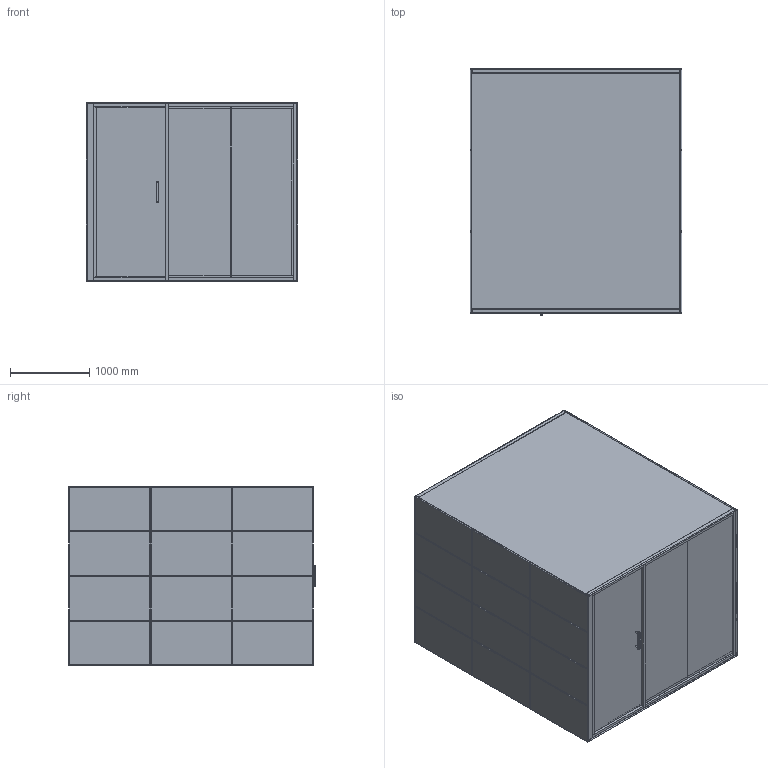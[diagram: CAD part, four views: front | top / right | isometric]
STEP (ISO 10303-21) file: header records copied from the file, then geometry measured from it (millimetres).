
FILE_DESCRIPTION(/* description */ ('','CAx-IF Rec.Pracs.---Representation and Presentation of Product Manufacturing Information (PMI)---4.0---2014-10-13'),/* implementation_level */ '2;1');
FILE_NAME(/* name */ 'SUMMIT6_step.step',/* time_stamp */ '2024-11-29T12:35:05+01:00',/* author */ (''),/* organization */ (''),/* preprocessor_version */ 'ST-DEVELOPER v20',/* originating_system */ 'Autodesk Translation Framework v13.20.0.188',/* authorisation */ '');
FILE_SCHEMA (('AP242_MANAGED_MODEL_BASED_3D_ENGINEERING_MIM_LF { 1 0 10303 442 1 1 4 }'));
Products named in the file (98): GEN4_SUMMIT6_EXPORT_FINAL_FBX; Floor; Component263; Ceiling; Component264; Upholstery_in; 08 (2); 05 (2); 09 (2); 02 (3); 04 (2); 03 (2); 06 (2); 07 (2); Upholstery_ex; 01 (4); 01 (5); 02 (5); Component2(Mirror) (1) (1); 03 (4); LATKA (8); 04 (4); 05 (4); 06 (4); 07 (4); 08 (4); 09 (4); 10 (1); 11 (1); 12 (1); 13 (1); 14 (1); 15 (1); Latka (1)_1; 16; 17; 18; 19; Component2(Mirror) (2); 02 (4)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
Assembly tree (145 placements, depth 5):
  GEN4_SUMMIT6_EXPORT_FINAL_FBX
    Floor
      Component263
    Ceiling
      Component264
    Upholstery_in
      02 (3)  x4
      03 (2)  x4
      04 (2)  x2
      05 (2)  x2
      06 (2)  x8
      07 (2)  x4
      08 (2)  x2
      09 (2)  x4
    Upholstery_ex
      01 (4)
        01 (5)
          LATKA (8)
        02 (5)
          Component2(Mirror) (1) (1)  x2
        03 (4)
          LATKA (8)
        04 (4)
          Latka (1)_1
        05 (4)
          Component2(Mirror) (2)
        06 (4)
          Latka (1)_1
        07 (4)
          Component2(Mirror) (2)
        08 (4)
          Latka (1)_1
        09 (4)
          Component2(Mirror) (2)
        10 (1)
          Latka (1)_1
        11 (1)
          Component2(Mirror) (2)
        12 (1)
          Latka (1)_1
        13 (1)
          Latka (1)_1
        14 (1)
          Latka (1)_1
        15 (1)
          Latka (1)_1
        16
          Component2(Mirror) (2)
        17
          Component2(Mirror) (2)
        18
          Component2(Mirror) (2)
        19
          Component2(Mirror) (2)
      02 (4)
        Component2(Mirror) (2) (1)
      03 (3)
        Component2(Mirror) (2) (2)
      04 (3)
        Component2(Mirror) (2) (3)
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Bounding box: 2676 x 3114.96 x 2266 mm (x, y, z)
Volume: 1411118063.4 mm3; surface area: 167674029 mm2
Topology: 116 solids, 142 shells, 2520 faces, 5771 edges, 3620 vertices
Faces by surface type: plane 1347, cylinder 682, sphere 223, bspline 197, cone 42, torus 29
Full cylindrical faces by diameter (mm): 4 x6, 5.3 x3, 5.65 x6, 6 x6, 8 x3, 8.3 x3, 12 x2, 20 x4, 36 x6, 40 x2, 44.12 x6, 44.266 x3, 44.8 x3, 44.87 x3, 45.2 x3, 45.27 x3, 70 x2, 76 x2
Entity records: 51307 total; most frequent: CARTESIAN_POINT 18332, DIRECTION 6481, ORIENTED_EDGE 6218, EDGE_CURVE 3109, AXIS2_PLACEMENT_3D 2208, LINE 2065, VECTOR 2065, VERTEX_POINT 1974
